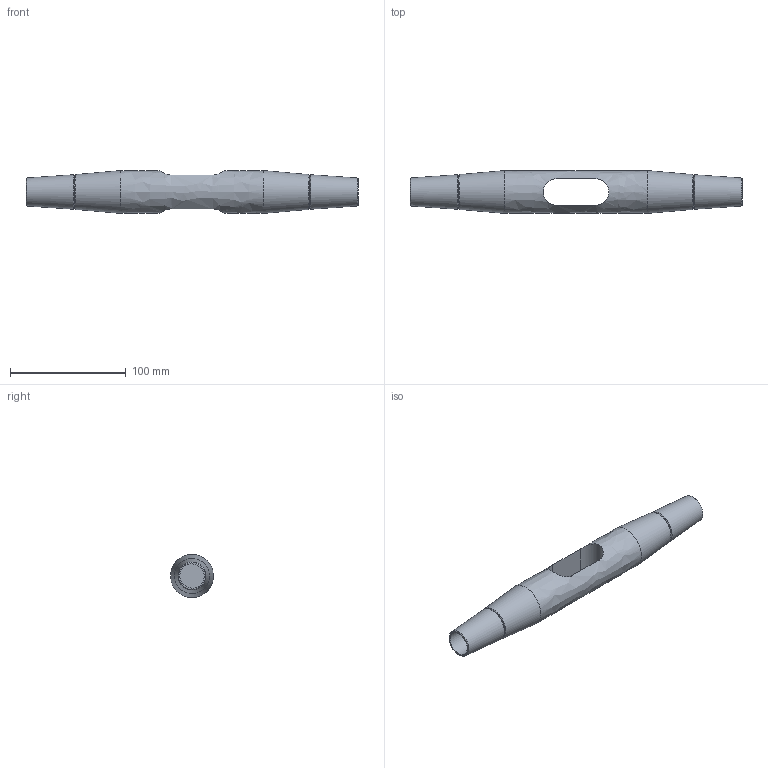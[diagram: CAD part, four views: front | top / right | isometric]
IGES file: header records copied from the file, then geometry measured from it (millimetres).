
Global section: file name: 520-020-KMF; native system: Autodesk Inventor 2016; preprocessor: unknown; author: Administrator; date: 20200702.131914; units: centimetre
Bounding box: 287 x 37 x 37 mm (x, y, z)
Volume: 187769.2 mm3; surface area: 37005.4 mm2
Topology: 1 solids, 1 shells, 23 faces, 55 edges, 38 vertices
Faces by surface type: bspline 23
